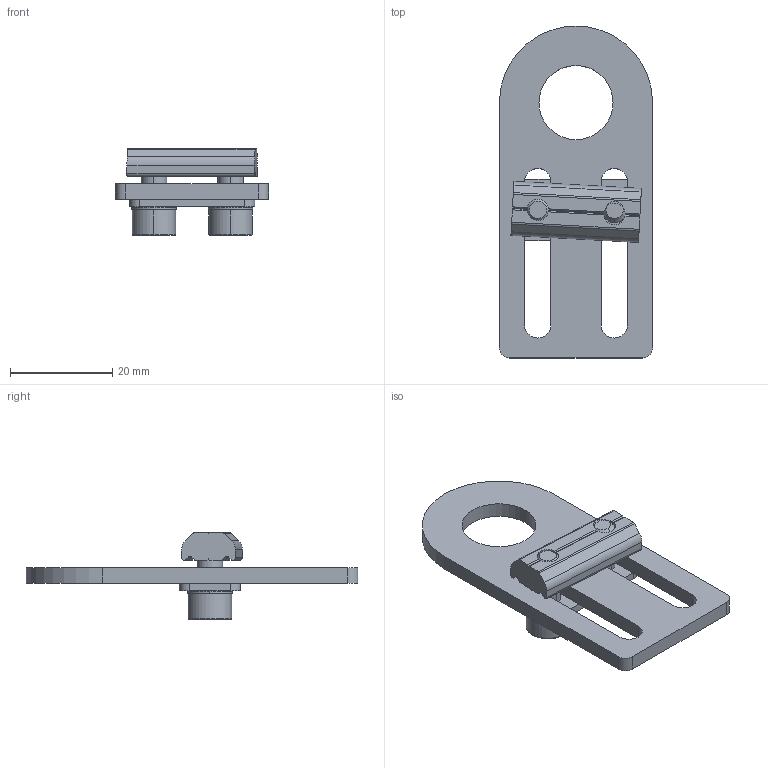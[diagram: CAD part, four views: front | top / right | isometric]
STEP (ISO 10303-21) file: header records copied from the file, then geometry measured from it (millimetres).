
FILE_DESCRIPTION (( 'STEP AP214' ), '1' );
FILE_NAME ('SMBE6-1428T.STEP', '2023-01-09T08:52:15', ( 'Windows User' ), ( 'P R C' ), 'SwSTEP 2.0', 'SolidWorks 2018', '' );
FILE_SCHEMA (( 'AUTOMOTIVE_DESIGN' ));
Length unit declared in the file: millimetre
Products named in the file (1): SMBE6-1428T
Bounding box: 30 x 65 x 17 mm (x, y, z)
Volume: 6488.1 mm3; surface area: 6561.8 mm2
Topology: 7 solids, 7 shells, 510 faces, 1476 edges, 976 vertices
Faces by surface type: plane 447, cylinder 55, cone 4, bspline 4
Entity records: 22940 total; most frequent: CARTESIAN_POINT 3425, ORIENTED_EDGE 2952, DIRECTION 2924, EDGE_CURVE 1476, AXIS2_PLACEMENT_3D 981, VERTEX_POINT 976, VECTOR 962, LINE 962
